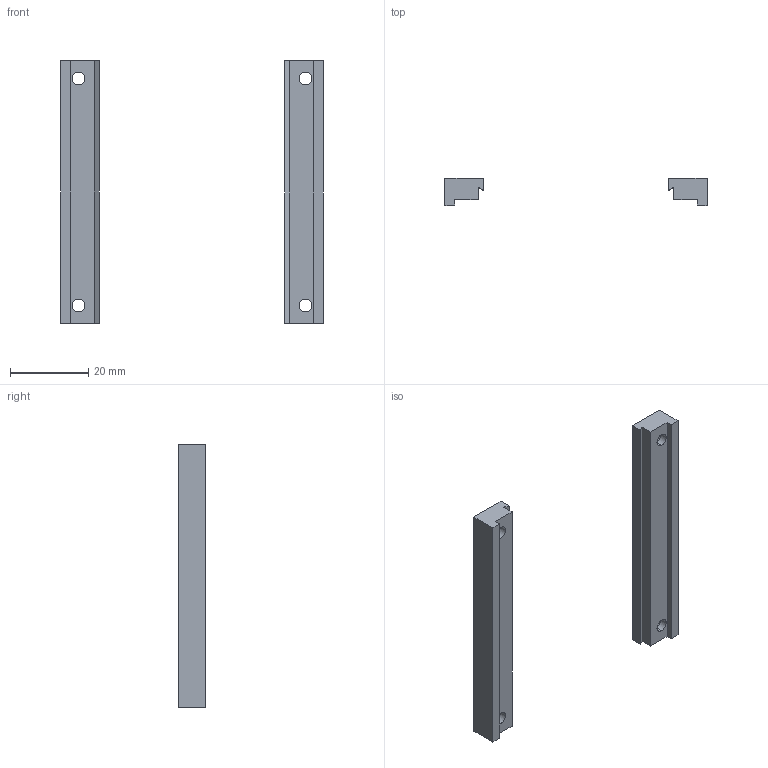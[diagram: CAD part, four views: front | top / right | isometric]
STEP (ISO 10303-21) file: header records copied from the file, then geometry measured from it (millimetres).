
FILE_DESCRIPTION (( 'STEP AP203' ), '1' );
FILE_NAME ('Befestigungsatz B 50.STEP', '2002-07-08T12:46:13', ( '' ), ( '' ), 'SwSTEP 2.0', 'SolidWorks 2002127', '' );
FILE_SCHEMA (( 'CONFIG_CONTROL_DESIGN' ));
Length unit declared in the file: millimetre
Products named in the file (2): Befestigungsatz B 50; Klemmprofil_3mm-+-D004966_ _PDB_050753
Assembly tree (2 placements, depth 2):
  Befestigungsatz B 50
    Klemmprofil_3mm-+-D004966_ _PDB_050753  x2
Bounding box: 67 x 6.8 x 67 mm (x, y, z)
Volume: 6546.9 mm3; surface area: 5051.9 mm2
Topology: 2 solids, 2 shells, 40 faces, 96 edges, 64 vertices
Faces by surface type: plane 24, cylinder 16
Entity records: 824 total; most frequent: DIRECTION 114, CARTESIAN_POINT 105, ORIENTED_EDGE 96, EDGE_CURVE 48, AXIS2_PLACEMENT_3D 41, VERTEX_POINT 32, LINE 32, VECTOR 32
